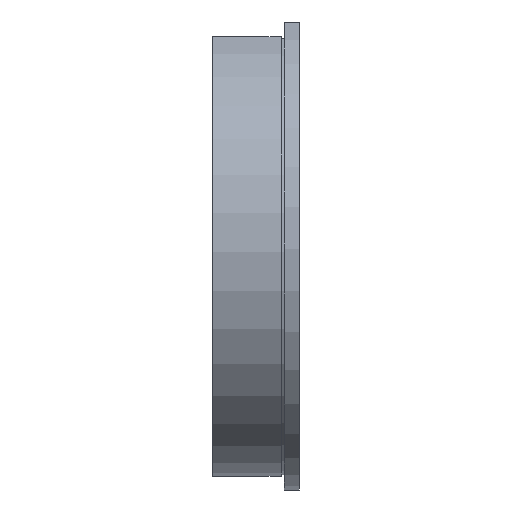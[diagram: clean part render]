
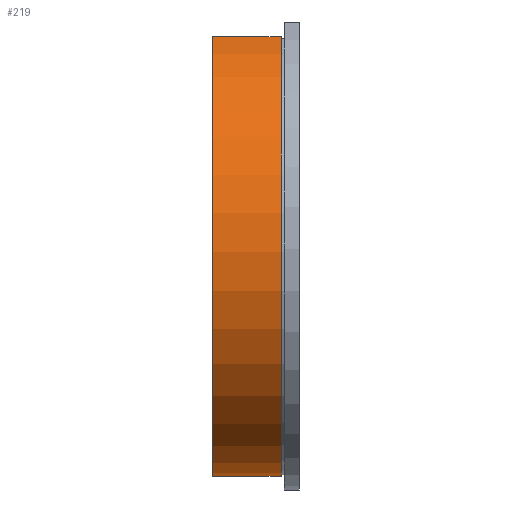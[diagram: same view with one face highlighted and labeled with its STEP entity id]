
A CAD part, front view. The second image highlights one B-rep face of the part: STEP entity #219.
In plain terms, the highlighted cylindrical face has radius 150 mm (diameter 300 mm), a partial arc.
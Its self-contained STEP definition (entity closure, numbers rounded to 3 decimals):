
#219=ADVANCED_FACE('',(#1238),#1240,.T.);
#1238=FACE_BOUND('',#1239,.T.);
#1239=EDGE_LOOP('',(#4140,#4141,#4142,#4143));
#1240=CYLINDRICAL_SURFACE('',#1241,150.);
#1241=AXIS2_PLACEMENT_3D('',#1242,#1243,#1244);
#1242=CARTESIAN_POINT('',(-12.,0.,0.));
#1243=DIRECTION('',(-1.,0.,0.));
#1244=DIRECTION('',(0.,0.,1.));
#4140=ORIENTED_EDGE('',*,*,#4680,.T.);
#4141=ORIENTED_EDGE('',*,*,#4619,.F.);
#4142=ORIENTED_EDGE('',*,*,#4675,.T.);
#4143=ORIENTED_EDGE('',*,*,#4681,.T.);
#4619=EDGE_CURVE('',#4934,#4936,#4937,.T.);
#4675=EDGE_CURVE('',#4934,#5037,#5040,.F.);
#4680=EDGE_CURVE('',#5048,#4936,#5049,.T.);
#4681=EDGE_CURVE('',#5037,#5048,#5050,.T.);
#4934=VERTEX_POINT('',#5546);
#4936=VERTEX_POINT('',#5550);
#4937=CIRCLE('',#5551,150.);
#5037=VERTEX_POINT('',#5787);
#5040=LINE('',#5792,#5793);
#5048=VERTEX_POINT('',#5810);
#5049=LINE('',#5811,#5812);
#5050=CIRCLE('',#5814,150.);
#5546=CARTESIAN_POINT('',(-57.,55.,139.553));
#5550=CARTESIAN_POINT('',(-57.,-55.,139.553));
#5551=AXIS2_PLACEMENT_3D('',#5552,#5553,#5554);
#5552=CARTESIAN_POINT('',(-57.,0.,0.));
#5553=DIRECTION('',(-1.,0.,0.));
#5554=DIRECTION('',(0.,0.367,0.93));
#5787=CARTESIAN_POINT('',(-12.,55.,139.553));
#5792=CARTESIAN_POINT('',(-12.,55.,139.553));
#5793=VECTOR('',#5794,1.);
#5794=DIRECTION('',(-1.,0.,0.));
#5810=CARTESIAN_POINT('',(-12.,-55.,139.553));
#5811=CARTESIAN_POINT('',(-12.,-55.,139.553));
#5812=VECTOR('',#5813,1.);
#5813=DIRECTION('',(-1.,0.,0.));
#5814=AXIS2_PLACEMENT_3D('',#5815,#5816,#5817);
#5815=CARTESIAN_POINT('',(-12.,0.,0.));
#5816=DIRECTION('',(-1.,0.,0.));
#5817=DIRECTION('',(0.,0.367,0.93));
